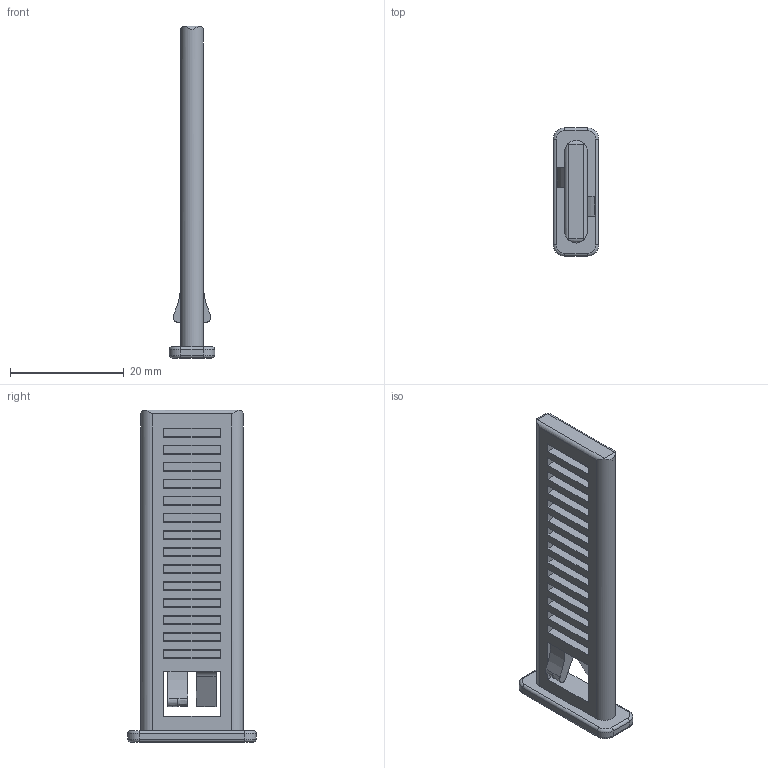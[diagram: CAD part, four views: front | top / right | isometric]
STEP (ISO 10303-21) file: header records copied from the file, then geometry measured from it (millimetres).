
FILE_DESCRIPTION((''),'2;1');
FILE_NAME('C:\Uebbing\PARAMETERKETTEN\KOLIBRI\Kol_65_195_5\Stecksteg PZ65.stp','2011-11-02T15:21:04',('Uebbing'),(''),'Autodesk Inventor 10','Autodesk Inventor 10','');
FILE_SCHEMA(('AUTOMOTIVE_DESIGN { 1 0 10303 214 1 1 1 1 }'));
Length unit declared in the file: millimetre
Products named in the file (1): Stecksteg PZ65
Bounding box: 8 x 22.61 x 58.5 mm (x, y, z)
Volume: 3415.1 mm3; surface area: 3676.4 mm2
Topology: 1 solids, 1 shells, 199 faces, 484 edges, 316 vertices
Faces by surface type: plane 161, cylinder 22, torus 8, bspline 4, sphere 4
Entity records: 6052 total; most frequent: CARTESIAN_POINT 1349, ORIENTED_EDGE 968, DIRECTION 906, EDGE_CURVE 484, VECTOR 414, LINE 414, VERTEX_POINT 316, AXIS2_PLACEMENT_3D 246
